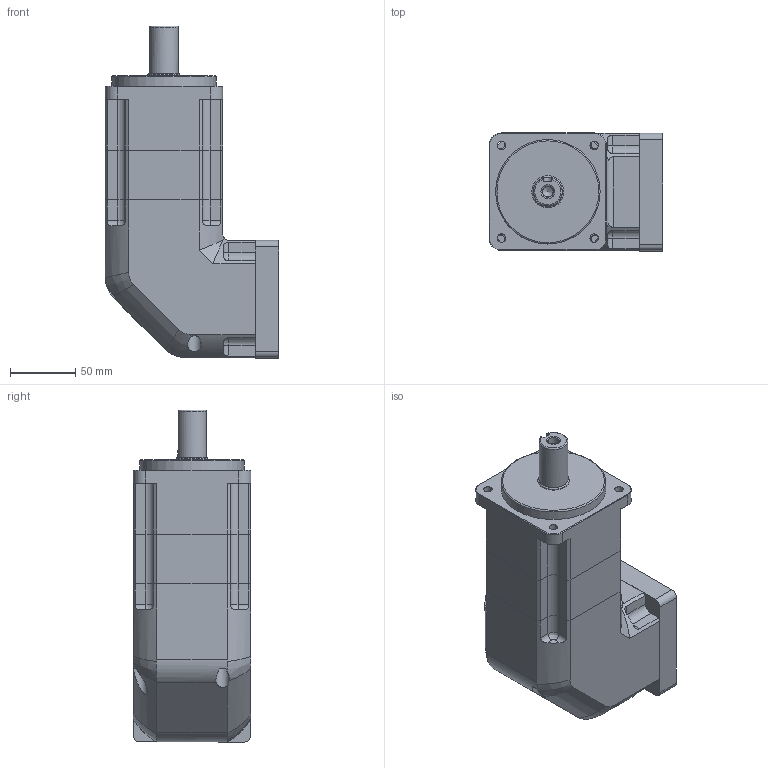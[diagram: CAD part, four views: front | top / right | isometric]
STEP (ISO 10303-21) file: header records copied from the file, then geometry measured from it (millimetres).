
FILE_DESCRIPTION((''),'2;1');
FILE_NAME('C:\Documents and Settings\nagyu\바탕 화면\유성감속기 3D\SPL090\SPL090S025~100KA.stp','2009-10-27T09:43:28',('nagyu'),(''),'Autodesk Inventor 2010','Autodesk Inventor 2010','');
FILE_SCHEMA(('AUTOMOTIVE_DESIGN { 1 0 10303 214 1 1 1 1 }'));
Length unit declared in the file: millimetre
Products named in the file (5): SPL090 2단; SPI090; SPL090 GEARCASE; 90각 INPUT ADAPTER FLANGE; 90각 CARRIER CASE
Assembly tree (4 placements, depth 2):
  SPL090 2단
    SPI090
    SPL090 GEARCASE
    90각 INPUT ADAPTER FLANGE
    90각 CARRIER CASE
Bounding box: 133.1 x 90 x 254.2 mm (x, y, z)
Volume: 1539074 mm3; surface area: 175075.3 mm2
Topology: 4 solids, 4 shells, 259 faces, 679 edges, 443 vertices
Faces by surface type: plane 108, cylinder 102, bspline 36, cone 10, torus 3
Full cylindrical faces by diameter (mm): 5.5 x4, 6.5 x4, 9.5 x4, 12 x1, 15 x1, 22 x1, 24.5 x1, 30 x1, 54 x1, 62 x2, 68 x1, 76 x1, 80 x1
Entity records: 8972 total; most frequent: CARTESIAN_POINT 2691, DIRECTION 1236, ORIENTED_EDGE 1226, EDGE_CURVE 613, AXIS2_PLACEMENT_3D 468, VERTEX_POINT 423, EDGE_LOOP 342, VECTOR 300
